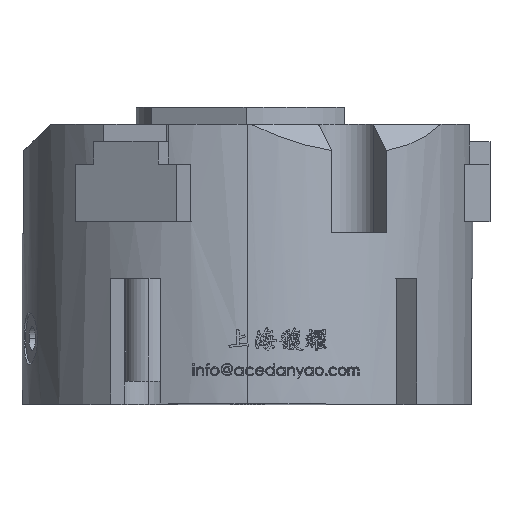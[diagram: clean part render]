
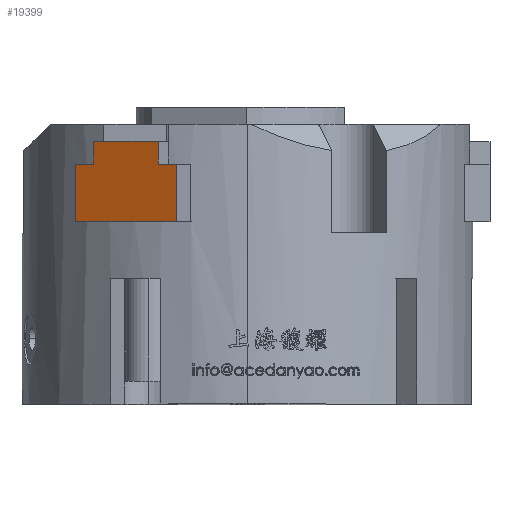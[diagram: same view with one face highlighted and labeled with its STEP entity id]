
A CAD part, top view. The second image highlights one B-rep face of the part: STEP entity #19399.
In plain terms, the highlighted planar face has unit normal (-0.5, 0, 0.866) as drawn and (-1, 0, 0) by its records, which use the part's own axes.
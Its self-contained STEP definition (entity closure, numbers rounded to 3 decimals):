
#119 = CARTESIAN_POINT ( 'NONE',  ( 0., 0., 10.3 ) ) ;
#499 = VECTOR ( 'NONE', #22680, 1000. ) ;
#1235 = DIRECTION ( 'NONE',  ( 0., 0., 1. ) ) ;
#1710 = CARTESIAN_POINT ( 'NONE',  ( 0., 14., 6.5 ) ) ;
#2423 = VERTEX_POINT ( 'NONE', #71131 ) ;
#2643 = DIRECTION ( 'NONE',  ( 0., 0., 1. ) ) ;
#3412 = EDGE_CURVE ( 'NONE', #29307, #2423, #9345, .T. ) ;
#5129 = VECTOR ( 'NONE', #25914, 1000. ) ;
#5206 = CARTESIAN_POINT ( 'NONE',  ( 0., 0., -10.3 ) ) ;
#6880 = CARTESIAN_POINT ( 'NONE',  ( 0., 0., 10.3 ) ) ;
#6937 = EDGE_CURVE ( 'NONE', #36440, #45021, #31959, .T. ) ;
#7050 = CARTESIAN_POINT ( 'NONE',  ( 0., 0., 10.3 ) ) ;
#7394 = ORIENTED_EDGE ( 'NONE', *, *, #3412, .F. ) ;
#7448 = CARTESIAN_POINT ( 'NONE',  ( 0., 10., 10.3 ) ) ;
#8375 = VECTOR ( 'NONE', #45857, 1000. ) ;
#9345 = LINE ( 'NONE', #67392, #24172 ) ;
#12216 = CARTESIAN_POINT ( 'NONE',  ( 0., 14., -6.5 ) ) ;
#15049 = VECTOR ( 'NONE', #52030, 1000. ) ;
#16279 = EDGE_CURVE ( 'NONE', #36181, #45021, #49338, .T. ) ;
#16473 = DIRECTION ( 'NONE',  ( 0., 1., 0. ) ) ;
#18749 = ORIENTED_EDGE ( 'NONE', *, *, #45298, .F. ) ;
#18933 = CARTESIAN_POINT ( 'NONE',  ( 0., 10., -6.5 ) ) ;
#19399 = ADVANCED_FACE ( 'NONE', ( #24954 ), #63978, .F. ) ;
#22680 = DIRECTION ( 'NONE',  ( 0., 0., 1. ) ) ;
#24172 = VECTOR ( 'NONE', #1235, 1000. ) ;
#24954 = FACE_OUTER_BOUND ( 'NONE', #47570, .T. ) ;
#25914 = DIRECTION ( 'NONE',  ( 0., -1., 0. ) ) ;
#26847 = VECTOR ( 'NONE', #68568, 1000. ) ;
#27715 = CARTESIAN_POINT ( 'NONE',  ( 0., 10., -10.3 ) ) ;
#28700 = VECTOR ( 'NONE', #16473, 1000. ) ;
#29307 = VERTEX_POINT ( 'NONE', #12216 ) ;
#31622 = LINE ( 'NONE', #7448, #15049 ) ;
#31959 = LINE ( 'NONE', #7050, #499 ) ;
#32251 = DIRECTION ( 'NONE',  ( 0., 1., 0. ) ) ;
#34805 = LINE ( 'NONE', #5206, #5129 ) ;
#36150 = ORIENTED_EDGE ( 'NONE', *, *, #43191, .T. ) ;
#36181 = VERTEX_POINT ( 'NONE', #66413 ) ;
#36440 = VERTEX_POINT ( 'NONE', #70219 ) ;
#41081 = VERTEX_POINT ( 'NONE', #18933 ) ;
#41458 = LINE ( 'NONE', #59209, #43204 ) ;
#41728 = LINE ( 'NONE', #49814, #28700 ) ;
#41873 = CARTESIAN_POINT ( 'NONE',  ( 0., 10., 6.5 ) ) ;
#43030 = VERTEX_POINT ( 'NONE', #27715 ) ;
#43191 = EDGE_CURVE ( 'NONE', #43030, #36440, #34805, .T. ) ;
#43204 = VECTOR ( 'NONE', #2643, 1000. ) ;
#43617 = VERTEX_POINT ( 'NONE', #41873 ) ;
#45021 = VERTEX_POINT ( 'NONE', #119 ) ;
#45298 = EDGE_CURVE ( 'NONE', #41081, #29307, #41728, .T. ) ;
#45721 = ORIENTED_EDGE ( 'NONE', *, *, #6937, .T. ) ;
#45857 = DIRECTION ( 'NONE',  ( 0., -1., 0. ) ) ;
#47570 = EDGE_LOOP ( 'NONE', ( #53610, #7394, #18749, #54471, #36150, #45721, #53543, #64911 ) ) ;
#47719 = EDGE_CURVE ( 'NONE', #2423, #43617, #71386, .T. ) ;
#49338 = LINE ( 'NONE', #6880, #8375 ) ;
#49814 = CARTESIAN_POINT ( 'NONE',  ( 0., 14., -6.5 ) ) ;
#52030 = DIRECTION ( 'NONE',  ( 0., 0., 1. ) ) ;
#53543 = ORIENTED_EDGE ( 'NONE', *, *, #16279, .F. ) ;
#53610 = ORIENTED_EDGE ( 'NONE', *, *, #47719, .F. ) ;
#54114 = EDGE_CURVE ( 'NONE', #43617, #36181, #41458, .T. ) ;
#54471 = ORIENTED_EDGE ( 'NONE', *, *, #63529, .F. ) ;
#59209 = CARTESIAN_POINT ( 'NONE',  ( 0., 10., 10.3 ) ) ;
#60034 = CARTESIAN_POINT ( 'NONE',  ( 0., 14., 10.3 ) ) ;
#63529 = EDGE_CURVE ( 'NONE', #43030, #41081, #31622, .T. ) ;
#63978 = PLANE ( 'NONE',  #65577 ) ;
#64911 = ORIENTED_EDGE ( 'NONE', *, *, #54114, .F. ) ;
#65577 = AXIS2_PLACEMENT_3D ( 'NONE', #60034, #65634, #32251 ) ;
#65634 = DIRECTION ( 'NONE',  ( 1., 0., 0. ) ) ;
#66413 = CARTESIAN_POINT ( 'NONE',  ( 0., 10., 10.3 ) ) ;
#67392 = CARTESIAN_POINT ( 'NONE',  ( 0., 14., 10.3 ) ) ;
#68568 = DIRECTION ( 'NONE',  ( 0., -1., 0. ) ) ;
#70219 = CARTESIAN_POINT ( 'NONE',  ( 0., 0., -10.3 ) ) ;
#71131 = CARTESIAN_POINT ( 'NONE',  ( 0., 14., 6.5 ) ) ;
#71386 = LINE ( 'NONE', #1710, #26847 ) ;
